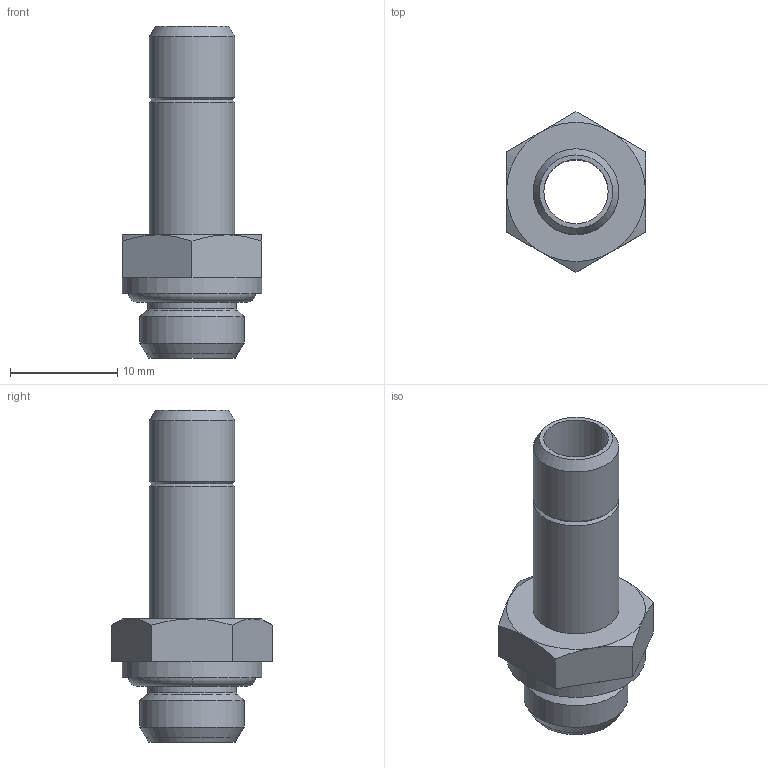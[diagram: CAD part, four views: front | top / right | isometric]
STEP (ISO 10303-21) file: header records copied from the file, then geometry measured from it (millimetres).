
FILE_DESCRIPTION(('Bauteilbeschreibung','HiCAD-Model','HiCAD-STEP-TRANSLATION','Bauteilbeschreibung'),'2;1');
FILE_NAME('B:/ABGLEICH/ZEICHNUNGEN/STEP FÜR INTERNET/STEP/IPSO 06/200609_IPSO_06_8_1-8.STP','2012-03-01T10:54:52+00:00',('Konstrukteur'),('Konstrukteur Firma GmbH'),' HiCAD neXt 2008, Step 3.1.1401.2J ','HiCAD neXt 2008','confidential');
FILE_SCHEMA(('AUTOMOTIVE_DESIGN { 1 2 10303 214 0 1 1 1 }'));
Length unit declared in the file: millimetre
Products named in the file (5): A00609_IPSO_06_8_1_8; A00609; A006090; G 1_8; OR 7_2X1_9
Assembly tree (4 placements, depth 3):
  A00609_IPSO_06_8_1_8
    A00609
    A006090
      G 1_8
    OR 7_2X1_9
Bounding box: 13 x 15.01 x 31 mm (x, y, z)
Volume: 1297.5 mm3; surface area: 2155.5 mm2
Topology: 3 solids, 3 shells, 46 faces, 101 edges, 60 vertices
Faces by surface type: plane 17, cone 15, cylinder 8, torus 6
Full cylindrical faces by diameter (mm): 6 x1, 8 x2, 8.3 x1, 8.566 x2, 9.728 x1, 13 x1
Entity records: 1529 total; most frequent: DIRECTION 212, CARTESIAN_POINT 202, ORIENTED_EDGE 146, AXIS2_PLACEMENT_3D 97, EDGE_CURVE 73, EDGE_LOOP 70, COLOUR_RGB 68, PRESENTATION_STYLE_ASSIGNMENT 68
